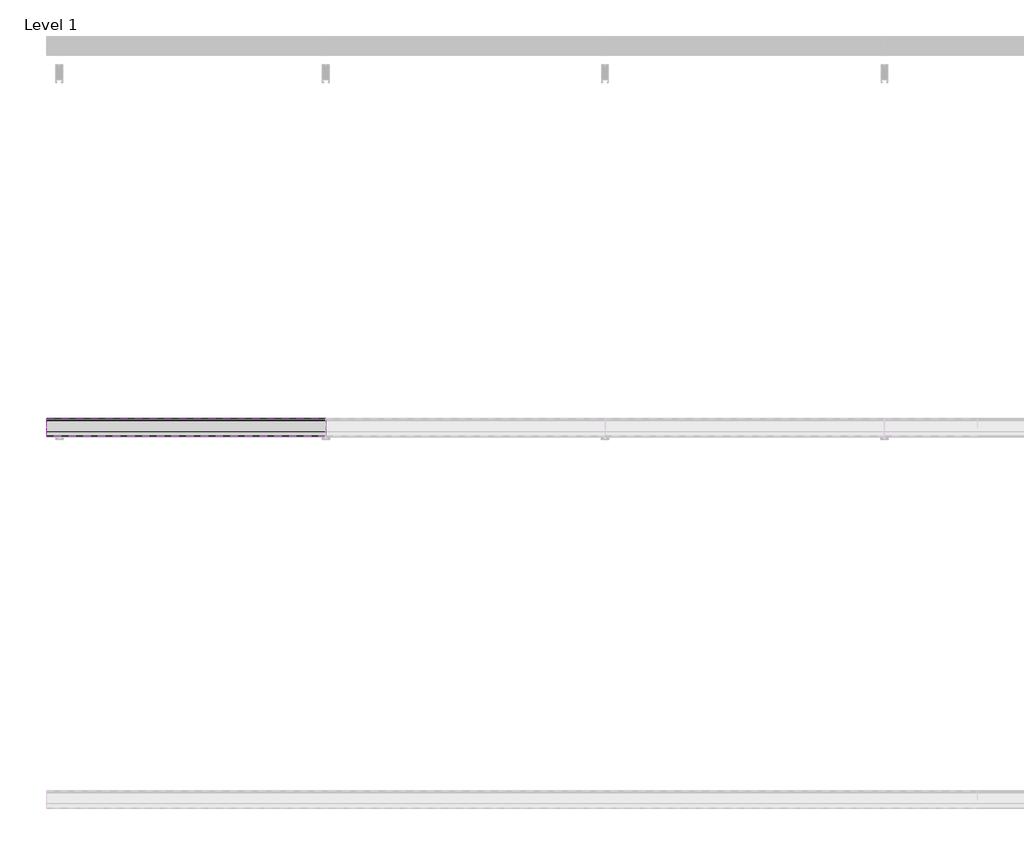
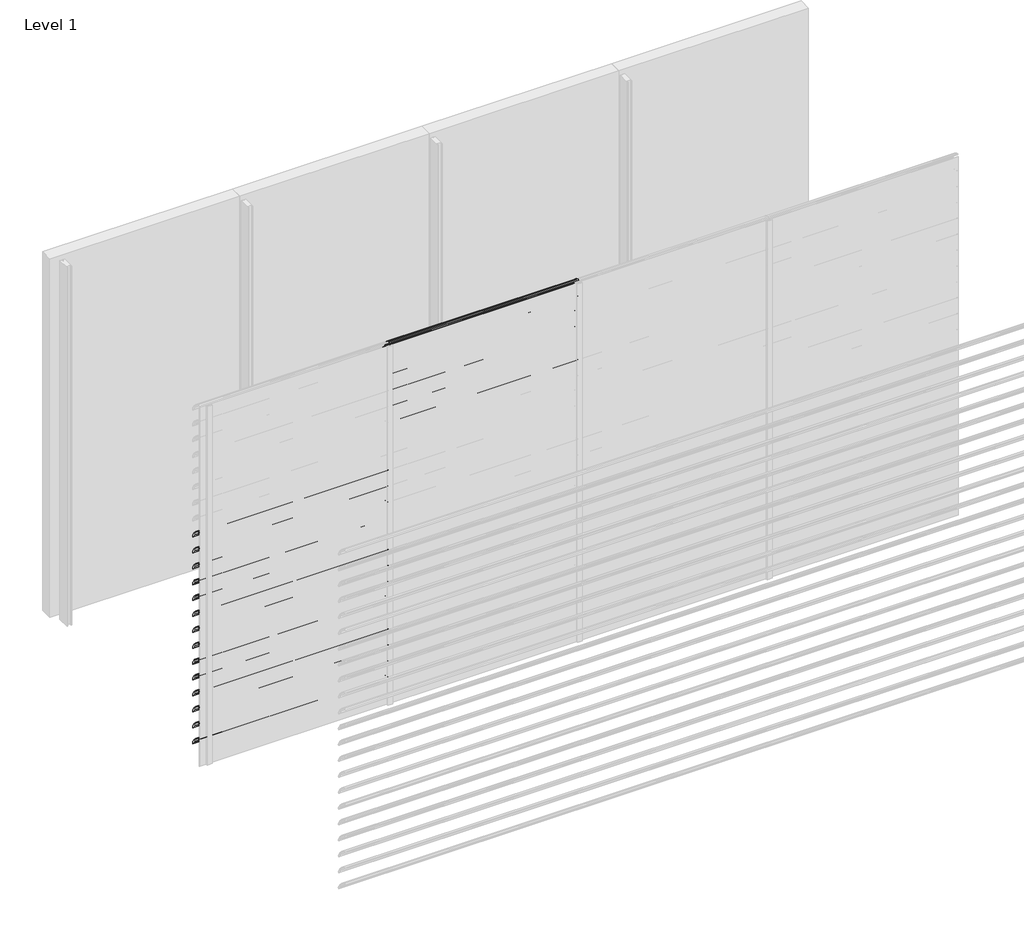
# One storey, part 32 of 57: 20 proxies.
"""IFC4 building model written with IfcOpenShell, lengths in millimetres."""

from ifc_helpers import new_model, si_unit, point, frame, frame_2d, origin, place, context, project, spatial, polyline, circle_curve, trimmed, segment, composite_curve, outline, extrude, element, save

model = new_model("IFC4")

# Units and contexts
model_context = context("Model", 3, world=origin())
ifc_project = project(units=[si_unit("LENGTHUNIT", "METRE", prefix="MILLI")], contexts=[model_context])

# Site, building, storey
site = spatial("IfcSite", under=ifc_project)
building = spatial("IfcBuilding", under=site)
storey = spatial("IfcBuildingStorey", under=building, Name="Level 1", Elevation=0.0)

# Proxies
placement = place(None, origin())
element("IfcBuildingElementProxy", 1, Name="Wall Sweeps", at=placement, inside=storey, context=model_context, shape_type="SweptSolid", body=[
    extrude(outline(composite_curve([segment(trimmed(circle_curve(frame_2d((-23993.7822526, 1952.4913792)), 4.2177474), [point((-23989.6985606, 1953.5462976))], [point((-23993.7822526, 1956.7091266))], False, "CARTESIAN"), True, "CONTINUOUS"), segment(trimmed(circle_curve(frame_2d((-24018.7150834, 1854.2536312)), 105.4456002), [point((-23993.7822526, 1956.7091266))], [point((-23971.7914298, 1948.6832099))], False, "CARTESIAN"), True, "CONTINUOUS"), segment(trimmed(circle_curve(frame_2d((-24061.7199745, 1800.0352476)), 173.7335887), [point((-23971.7914298, 1948.6832099))], [point((-23913.0720121, 1889.9637922))], False, "CARTESIAN"), True, "CONTINUOUS"), segment(trimmed(circle_curve(frame_2d((-24004.9297178, 1838.1860314)), 105.4456002), [point((-23913.0720121, 1889.9637922))], [point((-23903.6249616, 1867.4455765))], False, "CARTESIAN"), True, "CONTINUOUS"), segment(trimmed(circle_curve(frame_2d((-23907.809737, 1866.3307305)), 4.3307305), [point((-23903.6249616, 1867.4455765))], [point((-23909.0769196, 1862.189538))], False, "CARTESIAN"), True, "CONTINUOUS"), segment(polyline([(-23909.0769196, 1862.189538), (-23934.7401984, 1886.9722783)]), True, "CONTINUOUS"), segment(trimmed(circle_curve(frame_2d((-23931.3879574, 1889.2977626)), 4.079877), [point((-23934.7401984, 1886.9722783))], [point((-23930.7310597, 1893.3244091))], False, "CARTESIAN"), True, "CONTINUOUS"), segment(trimmed(circle_curve(frame_2d((-24014.6665585, 1871.2544323)), 86.7885467), [point((-23930.7310597, 1893.3244091))], [point((-23942.3028351, 1919.1683485))], True, "CARTESIAN"), True, "CONTINUOUS"), segment(polyline([(-23942.3028351, 1919.1683485), (-23940.7230099, 1921.9046861)]), True, "CONTINUOUS"), segment(trimmed(circle_curve(frame_2d((-24061.7199745, 1800.0352476)), 171.7335887), [point((-23940.7230099, 1921.9046861))], [point((-23972.7555872, 1946.9289618))], True, "CARTESIAN"), True, "CONTINUOUS"), segment(trimmed(circle_curve(frame_2d((-24018.7150834, 1854.2536312)), 103.4456002), [point((-23972.7555872, 1946.9289618))], [point((-23989.6985606, 1953.5462976))], True, "CARTESIAN"), True, "CONTINUOUS")], self_intersect=False)), frame((0.0, 0.0, 0.0), z_axis=(1.0, 0.0, 0.0), x_axis=(0.0, 1.0, 0.0)), (0.0, 0.0, 1.0), 1500.0),
])
element("IfcBuildingElementProxy", 2, Name="Wall Sweeps", at=placement, inside=storey, context=model_context, shape_type="SweptSolid", body=[
    extrude(outline(composite_curve([segment(trimmed(circle_curve(frame_2d((-23993.7822526, 1819.4913792)), 4.2177474), [point((-23989.6985606, 1820.5462976))], [point((-23993.7822526, 1823.7091266))], False, "CARTESIAN"), True, "CONTINUOUS"), segment(trimmed(circle_curve(frame_2d((-24018.7150834, 1721.2536312)), 105.4456002), [point((-23993.7822526, 1823.7091266))], [point((-23971.7914298, 1815.6832099))], False, "CARTESIAN"), True, "CONTINUOUS"), segment(trimmed(circle_curve(frame_2d((-24061.7199745, 1667.0352476)), 173.7335887), [point((-23971.7914298, 1815.6832099))], [point((-23913.0720121, 1756.9637922))], False, "CARTESIAN"), True, "CONTINUOUS"), segment(trimmed(circle_curve(frame_2d((-24004.9297178, 1705.1860314)), 105.4456002), [point((-23913.0720121, 1756.9637922))], [point((-23903.6249616, 1734.4455765))], False, "CARTESIAN"), True, "CONTINUOUS"), segment(trimmed(circle_curve(frame_2d((-23907.809737, 1733.3307305)), 4.3307305), [point((-23903.6249616, 1734.4455765))], [point((-23909.0769196, 1729.189538))], False, "CARTESIAN"), True, "CONTINUOUS"), segment(polyline([(-23909.0769196, 1729.189538), (-23934.7401984, 1753.9722783)]), True, "CONTINUOUS"), segment(trimmed(circle_curve(frame_2d((-23931.3879574, 1756.2977626)), 4.079877), [point((-23934.7401984, 1753.9722783))], [point((-23930.7310597, 1760.3244091))], False, "CARTESIAN"), True, "CONTINUOUS"), segment(trimmed(circle_curve(frame_2d((-24014.6665585, 1738.2544323)), 86.7885467), [point((-23930.7310597, 1760.3244091))], [point((-23942.3028351, 1786.1683485))], True, "CARTESIAN"), True, "CONTINUOUS"), segment(polyline([(-23942.3028351, 1786.1683485), (-23940.7230099, 1788.9046861)]), True, "CONTINUOUS"), segment(trimmed(circle_curve(frame_2d((-24061.7199745, 1667.0352476)), 171.7335887), [point((-23940.7230099, 1788.9046861))], [point((-23972.7555872, 1813.9289618))], True, "CARTESIAN"), True, "CONTINUOUS"), segment(trimmed(circle_curve(frame_2d((-24018.7150834, 1721.2536312)), 103.4456002), [point((-23972.7555872, 1813.9289618))], [point((-23989.6985606, 1820.5462976))], True, "CARTESIAN"), True, "CONTINUOUS")], self_intersect=False)), frame((0.0, 0.0, 0.0), z_axis=(1.0, 0.0, 0.0), x_axis=(0.0, 1.0, 0.0)), (0.0, 0.0, 1.0), 1500.0),
])
element("IfcBuildingElementProxy", 3, Name="Wall Sweeps", at=placement, inside=storey, context=model_context, shape_type="SweptSolid", body=[
    extrude(outline(composite_curve([segment(trimmed(circle_curve(frame_2d((-23993.7822526, 1686.4913792)), 4.2177474), [point((-23989.6985606, 1687.5462976))], [point((-23993.7822526, 1690.7091266))], False, "CARTESIAN"), True, "CONTINUOUS"), segment(trimmed(circle_curve(frame_2d((-24018.7150834, 1588.2536312)), 105.4456002), [point((-23993.7822526, 1690.7091266))], [point((-23971.7914298, 1682.6832099))], False, "CARTESIAN"), True, "CONTINUOUS"), segment(trimmed(circle_curve(frame_2d((-24061.7199745, 1534.0352476)), 173.7335887), [point((-23971.7914298, 1682.6832099))], [point((-23913.0720121, 1623.9637922))], False, "CARTESIAN"), True, "CONTINUOUS"), segment(trimmed(circle_curve(frame_2d((-24004.9297178, 1572.1860314)), 105.4456002), [point((-23913.0720121, 1623.9637922))], [point((-23903.6249616, 1601.4455765))], False, "CARTESIAN"), True, "CONTINUOUS"), segment(trimmed(circle_curve(frame_2d((-23907.809737, 1600.3307305)), 4.3307305), [point((-23903.6249616, 1601.4455765))], [point((-23909.0769196, 1596.189538))], False, "CARTESIAN"), True, "CONTINUOUS"), segment(polyline([(-23909.0769196, 1596.189538), (-23934.7401984, 1620.9722783)]), True, "CONTINUOUS"), segment(trimmed(circle_curve(frame_2d((-23931.3879574, 1623.2977626)), 4.079877), [point((-23934.7401984, 1620.9722783))], [point((-23930.7310597, 1627.3244091))], False, "CARTESIAN"), True, "CONTINUOUS"), segment(trimmed(circle_curve(frame_2d((-24014.6665585, 1605.2544323)), 86.7885467), [point((-23930.7310597, 1627.3244091))], [point((-23942.3028351, 1653.1683485))], True, "CARTESIAN"), True, "CONTINUOUS"), segment(polyline([(-23942.3028351, 1653.1683485), (-23940.7230099, 1655.9046861)]), True, "CONTINUOUS"), segment(trimmed(circle_curve(frame_2d((-24061.7199745, 1534.0352476)), 171.7335887), [point((-23940.7230099, 1655.9046861))], [point((-23972.7555872, 1680.9289618))], True, "CARTESIAN"), True, "CONTINUOUS"), segment(trimmed(circle_curve(frame_2d((-24018.7150834, 1588.2536312)), 103.4456002), [point((-23972.7555872, 1680.9289618))], [point((-23989.6985606, 1687.5462976))], True, "CARTESIAN"), True, "CONTINUOUS")], self_intersect=False)), frame((0.0, 0.0, 0.0), z_axis=(1.0, 0.0, 0.0), x_axis=(0.0, 1.0, 0.0)), (0.0, 0.0, 1.0), 1500.0),
])
element("IfcBuildingElementProxy", 4, Name="Wall Sweeps", at=placement, inside=storey, context=model_context, shape_type="SweptSolid", body=[
    extrude(outline(composite_curve([segment(trimmed(circle_curve(frame_2d((-23993.7822526, 1553.4913792)), 4.2177474), [point((-23989.6985606, 1554.5462976))], [point((-23993.7822526, 1557.7091266))], False, "CARTESIAN"), True, "CONTINUOUS"), segment(trimmed(circle_curve(frame_2d((-24018.7150834, 1455.2536312)), 105.4456002), [point((-23993.7822526, 1557.7091266))], [point((-23971.7914298, 1549.6832099))], False, "CARTESIAN"), True, "CONTINUOUS"), segment(trimmed(circle_curve(frame_2d((-24061.7199745, 1401.0352476)), 173.7335887), [point((-23971.7914298, 1549.6832099))], [point((-23913.0720121, 1490.9637922))], False, "CARTESIAN"), True, "CONTINUOUS"), segment(trimmed(circle_curve(frame_2d((-24004.9297178, 1439.1860314)), 105.4456002), [point((-23913.0720121, 1490.9637922))], [point((-23903.6249616, 1468.4455765))], False, "CARTESIAN"), True, "CONTINUOUS"), segment(trimmed(circle_curve(frame_2d((-23907.809737, 1467.3307305)), 4.3307305), [point((-23903.6249616, 1468.4455765))], [point((-23909.0769196, 1463.189538))], False, "CARTESIAN"), True, "CONTINUOUS"), segment(polyline([(-23909.0769196, 1463.189538), (-23934.7401984, 1487.9722783)]), True, "CONTINUOUS"), segment(trimmed(circle_curve(frame_2d((-23931.3879574, 1490.2977626)), 4.079877), [point((-23934.7401984, 1487.9722783))], [point((-23930.7310597, 1494.3244091))], False, "CARTESIAN"), True, "CONTINUOUS"), segment(trimmed(circle_curve(frame_2d((-24014.6665585, 1472.2544323)), 86.7885467), [point((-23930.7310597, 1494.3244091))], [point((-23942.3028351, 1520.1683485))], True, "CARTESIAN"), True, "CONTINUOUS"), segment(polyline([(-23942.3028351, 1520.1683485), (-23940.7230099, 1522.9046861)]), True, "CONTINUOUS"), segment(trimmed(circle_curve(frame_2d((-24061.7199745, 1401.0352476)), 171.7335887), [point((-23940.7230099, 1522.9046861))], [point((-23972.7555872, 1547.9289618))], True, "CARTESIAN"), True, "CONTINUOUS"), segment(trimmed(circle_curve(frame_2d((-24018.7150834, 1455.2536312)), 103.4456002), [point((-23972.7555872, 1547.9289618))], [point((-23989.6985606, 1554.5462976))], True, "CARTESIAN"), True, "CONTINUOUS")], self_intersect=False)), frame((0.0, 0.0, 0.0), z_axis=(1.0, 0.0, 0.0), x_axis=(0.0, 1.0, 0.0)), (0.0, 0.0, 1.0), 1500.0),
])
element("IfcBuildingElementProxy", 5, Name="Wall Sweeps", at=placement, inside=storey, context=model_context, shape_type="SweptSolid", body=[
    extrude(outline(composite_curve([segment(trimmed(circle_curve(frame_2d((-23993.7822526, 1420.4913792)), 4.2177474), [point((-23989.6985606, 1421.5462976))], [point((-23993.7822526, 1424.7091266))], False, "CARTESIAN"), True, "CONTINUOUS"), segment(trimmed(circle_curve(frame_2d((-24018.7150834, 1322.2536312)), 105.4456002), [point((-23993.7822526, 1424.7091266))], [point((-23971.7914298, 1416.6832099))], False, "CARTESIAN"), True, "CONTINUOUS"), segment(trimmed(circle_curve(frame_2d((-24061.7199745, 1268.0352476)), 173.7335887), [point((-23971.7914298, 1416.6832099))], [point((-23913.0720121, 1357.9637922))], False, "CARTESIAN"), True, "CONTINUOUS"), segment(trimmed(circle_curve(frame_2d((-24004.9297178, 1306.1860314)), 105.4456002), [point((-23913.0720121, 1357.9637922))], [point((-23903.6249616, 1335.4455765))], False, "CARTESIAN"), True, "CONTINUOUS"), segment(trimmed(circle_curve(frame_2d((-23907.809737, 1334.3307305)), 4.3307305), [point((-23903.6249616, 1335.4455765))], [point((-23909.0769196, 1330.189538))], False, "CARTESIAN"), True, "CONTINUOUS"), segment(polyline([(-23909.0769196, 1330.189538), (-23934.7401984, 1354.9722783)]), True, "CONTINUOUS"), segment(trimmed(circle_curve(frame_2d((-23931.3879574, 1357.2977626)), 4.079877), [point((-23934.7401984, 1354.9722783))], [point((-23930.7310597, 1361.3244091))], False, "CARTESIAN"), True, "CONTINUOUS"), segment(trimmed(circle_curve(frame_2d((-24014.6665585, 1339.2544323)), 86.7885467), [point((-23930.7310597, 1361.3244091))], [point((-23942.3028351, 1387.1683485))], True, "CARTESIAN"), True, "CONTINUOUS"), segment(polyline([(-23942.3028351, 1387.1683485), (-23940.7230099, 1389.9046861)]), True, "CONTINUOUS"), segment(trimmed(circle_curve(frame_2d((-24061.7199745, 1268.0352476)), 171.7335887), [point((-23940.7230099, 1389.9046861))], [point((-23972.7555872, 1414.9289618))], True, "CARTESIAN"), True, "CONTINUOUS"), segment(trimmed(circle_curve(frame_2d((-24018.7150834, 1322.2536312)), 103.4456002), [point((-23972.7555872, 1414.9289618))], [point((-23989.6985606, 1421.5462976))], True, "CARTESIAN"), True, "CONTINUOUS")], self_intersect=False)), frame((0.0, 0.0, 0.0), z_axis=(1.0, 0.0, 0.0), x_axis=(0.0, 1.0, 0.0)), (0.0, 0.0, 1.0), 1500.0),
])
element("IfcBuildingElementProxy", 6, Name="Wall Sweeps", at=placement, inside=storey, context=model_context, shape_type="SweptSolid", body=[
    extrude(outline(composite_curve([segment(trimmed(circle_curve(frame_2d((-23993.7822526, 1287.4913792)), 4.2177474), [point((-23989.6985606, 1288.5462976))], [point((-23993.7822526, 1291.7091266))], False, "CARTESIAN"), True, "CONTINUOUS"), segment(trimmed(circle_curve(frame_2d((-24018.7150834, 1189.2536312)), 105.4456002), [point((-23993.7822526, 1291.7091266))], [point((-23971.7914298, 1283.6832099))], False, "CARTESIAN"), True, "CONTINUOUS"), segment(trimmed(circle_curve(frame_2d((-24061.7199745, 1135.0352476)), 173.7335887), [point((-23971.7914298, 1283.6832099))], [point((-23913.0720121, 1224.9637922))], False, "CARTESIAN"), True, "CONTINUOUS"), segment(trimmed(circle_curve(frame_2d((-24004.9297178, 1173.1860314)), 105.4456002), [point((-23913.0720121, 1224.9637922))], [point((-23903.6249616, 1202.4455765))], False, "CARTESIAN"), True, "CONTINUOUS"), segment(trimmed(circle_curve(frame_2d((-23907.809737, 1201.3307305)), 4.3307305), [point((-23903.6249616, 1202.4455765))], [point((-23909.0769196, 1197.189538))], False, "CARTESIAN"), True, "CONTINUOUS"), segment(polyline([(-23909.0769196, 1197.189538), (-23934.7401984, 1221.9722783)]), True, "CONTINUOUS"), segment(trimmed(circle_curve(frame_2d((-23931.3879574, 1224.2977626)), 4.079877), [point((-23934.7401984, 1221.9722783))], [point((-23930.7310597, 1228.3244091))], False, "CARTESIAN"), True, "CONTINUOUS"), segment(trimmed(circle_curve(frame_2d((-24014.6665585, 1206.2544323)), 86.7885467), [point((-23930.7310597, 1228.3244091))], [point((-23942.3028351, 1254.1683485))], True, "CARTESIAN"), True, "CONTINUOUS"), segment(polyline([(-23942.3028351, 1254.1683485), (-23940.7230099, 1256.9046861)]), True, "CONTINUOUS"), segment(trimmed(circle_curve(frame_2d((-24061.7199745, 1135.0352476)), 171.7335887), [point((-23940.7230099, 1256.9046861))], [point((-23972.7555872, 1281.9289618))], True, "CARTESIAN"), True, "CONTINUOUS"), segment(trimmed(circle_curve(frame_2d((-24018.7150834, 1189.2536312)), 103.4456002), [point((-23972.7555872, 1281.9289618))], [point((-23989.6985606, 1288.5462976))], True, "CARTESIAN"), True, "CONTINUOUS")], self_intersect=False)), frame((0.0, 0.0, 0.0), z_axis=(1.0, 0.0, 0.0), x_axis=(0.0, 1.0, 0.0)), (0.0, 0.0, 1.0), 1500.0),
])
element("IfcBuildingElementProxy", 7, Name="Wall Sweeps", at=placement, inside=storey, context=model_context, shape_type="SweptSolid", body=[
    extrude(outline(composite_curve([segment(trimmed(circle_curve(frame_2d((-23993.7822526, 1154.4913792)), 4.2177474), [point((-23989.6985606, 1155.5462976))], [point((-23993.7822526, 1158.7091266))], False, "CARTESIAN"), True, "CONTINUOUS"), segment(trimmed(circle_curve(frame_2d((-24018.7150834, 1056.2536312)), 105.4456002), [point((-23993.7822526, 1158.7091266))], [point((-23971.7914298, 1150.6832099))], False, "CARTESIAN"), True, "CONTINUOUS"), segment(trimmed(circle_curve(frame_2d((-24061.7199745, 1002.0352476)), 173.7335887), [point((-23971.7914298, 1150.6832099))], [point((-23913.0720121, 1091.9637922))], False, "CARTESIAN"), True, "CONTINUOUS"), segment(trimmed(circle_curve(frame_2d((-24004.9297178, 1040.1860314)), 105.4456002), [point((-23913.0720121, 1091.9637922))], [point((-23903.6249616, 1069.4455765))], False, "CARTESIAN"), True, "CONTINUOUS"), segment(trimmed(circle_curve(frame_2d((-23907.809737, 1068.3307305)), 4.3307305), [point((-23903.6249616, 1069.4455765))], [point((-23909.0769196, 1064.189538))], False, "CARTESIAN"), True, "CONTINUOUS"), segment(polyline([(-23909.0769196, 1064.189538), (-23934.7401984, 1088.9722783)]), True, "CONTINUOUS"), segment(trimmed(circle_curve(frame_2d((-23931.3879574, 1091.2977626)), 4.079877), [point((-23934.7401984, 1088.9722783))], [point((-23930.7310597, 1095.3244091))], False, "CARTESIAN"), True, "CONTINUOUS"), segment(trimmed(circle_curve(frame_2d((-24014.6665585, 1073.2544323)), 86.7885467), [point((-23930.7310597, 1095.3244091))], [point((-23942.3028351, 1121.1683485))], True, "CARTESIAN"), True, "CONTINUOUS"), segment(polyline([(-23942.3028351, 1121.1683485), (-23940.7230099, 1123.9046861)]), True, "CONTINUOUS"), segment(trimmed(circle_curve(frame_2d((-24061.7199745, 1002.0352476)), 171.7335887), [point((-23940.7230099, 1123.9046861))], [point((-23972.7555872, 1148.9289618))], True, "CARTESIAN"), True, "CONTINUOUS"), segment(trimmed(circle_curve(frame_2d((-24018.7150834, 1056.2536312)), 103.4456002), [point((-23972.7555872, 1148.9289618))], [point((-23989.6985606, 1155.5462976))], True, "CARTESIAN"), True, "CONTINUOUS")], self_intersect=False)), frame((0.0, 0.0, 0.0), z_axis=(1.0, 0.0, 0.0), x_axis=(0.0, 1.0, 0.0)), (0.0, 0.0, 1.0), 1500.0),
])
element("IfcBuildingElementProxy", 8, Name="Wall Sweeps", at=placement, inside=storey, context=model_context, shape_type="SweptSolid", body=[
    extrude(outline(composite_curve([segment(trimmed(circle_curve(frame_2d((-23993.7822526, 1021.4913792)), 4.2177474), [point((-23989.6985606, 1022.5462976))], [point((-23993.7822526, 1025.7091266))], False, "CARTESIAN"), True, "CONTINUOUS"), segment(trimmed(circle_curve(frame_2d((-24018.7150834, 923.2536312)), 105.4456002), [point((-23993.7822526, 1025.7091266))], [point((-23971.7914298, 1017.6832099))], False, "CARTESIAN"), True, "CONTINUOUS"), segment(trimmed(circle_curve(frame_2d((-24061.7199745, 869.0352476)), 173.7335887), [point((-23971.7914298, 1017.6832099))], [point((-23913.0720121, 958.9637922))], False, "CARTESIAN"), True, "CONTINUOUS"), segment(trimmed(circle_curve(frame_2d((-24004.9297178, 907.1860314)), 105.4456002), [point((-23913.0720121, 958.9637922))], [point((-23903.6249616, 936.4455765))], False, "CARTESIAN"), True, "CONTINUOUS"), segment(trimmed(circle_curve(frame_2d((-23907.809737, 935.3307305)), 4.3307305), [point((-23903.6249616, 936.4455765))], [point((-23909.0769196, 931.189538))], False, "CARTESIAN"), True, "CONTINUOUS"), segment(polyline([(-23909.0769196, 931.189538), (-23934.7401984, 955.9722783)]), True, "CONTINUOUS"), segment(trimmed(circle_curve(frame_2d((-23931.3879574, 958.2977626)), 4.079877), [point((-23934.7401984, 955.9722783))], [point((-23930.7310597, 962.3244091))], False, "CARTESIAN"), True, "CONTINUOUS"), segment(trimmed(circle_curve(frame_2d((-24014.6665585, 940.2544323)), 86.7885467), [point((-23930.7310597, 962.3244091))], [point((-23942.3028351, 988.1683485))], True, "CARTESIAN"), True, "CONTINUOUS"), segment(polyline([(-23942.3028351, 988.1683485), (-23940.7230099, 990.9046861)]), True, "CONTINUOUS"), segment(trimmed(circle_curve(frame_2d((-24061.7199745, 869.0352476)), 171.7335887), [point((-23940.7230099, 990.9046861))], [point((-23972.7555872, 1015.9289618))], True, "CARTESIAN"), True, "CONTINUOUS"), segment(trimmed(circle_curve(frame_2d((-24018.7150834, 923.2536312)), 103.4456002), [point((-23972.7555872, 1015.9289618))], [point((-23989.6985606, 1022.5462976))], True, "CARTESIAN"), True, "CONTINUOUS")], self_intersect=False)), frame((0.0, 0.0, 0.0), z_axis=(1.0, 0.0, 0.0), x_axis=(0.0, 1.0, 0.0)), (0.0, 0.0, 1.0), 1500.0),
])
element("IfcBuildingElementProxy", 9, Name="Wall Sweeps", at=placement, inside=storey, context=model_context, shape_type="SweptSolid", body=[
    extrude(outline(composite_curve([segment(trimmed(circle_curve(frame_2d((-23993.7822526, 888.4913792)), 4.2177474), [point((-23989.6985606, 889.5462976))], [point((-23993.7822526, 892.7091266))], False, "CARTESIAN"), True, "CONTINUOUS"), segment(trimmed(circle_curve(frame_2d((-24018.7150834, 790.2536312)), 105.4456002), [point((-23993.7822526, 892.7091266))], [point((-23971.7914298, 884.6832099))], False, "CARTESIAN"), True, "CONTINUOUS"), segment(trimmed(circle_curve(frame_2d((-24061.7199745, 736.0352476)), 173.7335887), [point((-23971.7914298, 884.6832099))], [point((-23913.0720121, 825.9637922))], False, "CARTESIAN"), True, "CONTINUOUS"), segment(trimmed(circle_curve(frame_2d((-24004.9297178, 774.1860314)), 105.4456002), [point((-23913.0720121, 825.9637922))], [point((-23903.6249616, 803.4455765))], False, "CARTESIAN"), True, "CONTINUOUS"), segment(trimmed(circle_curve(frame_2d((-23907.809737, 802.3307305)), 4.3307305), [point((-23903.6249616, 803.4455765))], [point((-23909.0769196, 798.189538))], False, "CARTESIAN"), True, "CONTINUOUS"), segment(polyline([(-23909.0769196, 798.189538), (-23934.7401984, 822.9722783)]), True, "CONTINUOUS"), segment(trimmed(circle_curve(frame_2d((-23931.3879574, 825.2977626)), 4.079877), [point((-23934.7401984, 822.9722783))], [point((-23930.7310597, 829.3244091))], False, "CARTESIAN"), True, "CONTINUOUS"), segment(trimmed(circle_curve(frame_2d((-24014.6665585, 807.2544323)), 86.7885467), [point((-23930.7310597, 829.3244091))], [point((-23942.3028351, 855.1683485))], True, "CARTESIAN"), True, "CONTINUOUS"), segment(polyline([(-23942.3028351, 855.1683485), (-23940.7230099, 857.9046861)]), True, "CONTINUOUS"), segment(trimmed(circle_curve(frame_2d((-24061.7199745, 736.0352476)), 171.7335887), [point((-23940.7230099, 857.9046861))], [point((-23972.7555872, 882.9289618))], True, "CARTESIAN"), True, "CONTINUOUS"), segment(trimmed(circle_curve(frame_2d((-24018.7150834, 790.2536312)), 103.4456002), [point((-23972.7555872, 882.9289618))], [point((-23989.6985606, 889.5462976))], True, "CARTESIAN"), True, "CONTINUOUS")], self_intersect=False)), frame((0.0, 0.0, 0.0), z_axis=(1.0, 0.0, 0.0), x_axis=(0.0, 1.0, 0.0)), (0.0, 0.0, 1.0), 1500.0),
])
element("IfcBuildingElementProxy", 10, Name="Wall Sweeps", at=placement, inside=storey, context=model_context, shape_type="SweptSolid", body=[
    extrude(outline(composite_curve([segment(trimmed(circle_curve(frame_2d((-23993.7822526, 755.4913792)), 4.2177474), [point((-23989.6985606, 756.5462976))], [point((-23993.7822526, 759.7091266))], False, "CARTESIAN"), True, "CONTINUOUS"), segment(trimmed(circle_curve(frame_2d((-24018.7150834, 657.2536312)), 105.4456002), [point((-23993.7822526, 759.7091266))], [point((-23971.7914298, 751.6832099))], False, "CARTESIAN"), True, "CONTINUOUS"), segment(trimmed(circle_curve(frame_2d((-24061.7199745, 603.0352476)), 173.7335887), [point((-23971.7914298, 751.6832099))], [point((-23913.0720121, 692.9637922))], False, "CARTESIAN"), True, "CONTINUOUS"), segment(trimmed(circle_curve(frame_2d((-24004.9297178, 641.1860314)), 105.4456002), [point((-23913.0720121, 692.9637922))], [point((-23903.6249616, 670.4455765))], False, "CARTESIAN"), True, "CONTINUOUS"), segment(trimmed(circle_curve(frame_2d((-23907.809737, 669.3307305)), 4.3307305), [point((-23903.6249616, 670.4455765))], [point((-23909.0769196, 665.189538))], False, "CARTESIAN"), True, "CONTINUOUS"), segment(polyline([(-23909.0769196, 665.189538), (-23934.7401984, 689.9722783)]), True, "CONTINUOUS"), segment(trimmed(circle_curve(frame_2d((-23931.3879574, 692.2977626)), 4.079877), [point((-23934.7401984, 689.9722783))], [point((-23930.7310597, 696.3244091))], False, "CARTESIAN"), True, "CONTINUOUS"), segment(trimmed(circle_curve(frame_2d((-24014.6665585, 674.2544323)), 86.7885467), [point((-23930.7310597, 696.3244091))], [point((-23942.3028351, 722.1683485))], True, "CARTESIAN"), True, "CONTINUOUS"), segment(polyline([(-23942.3028351, 722.1683485), (-23940.7230099, 724.9046861)]), True, "CONTINUOUS"), segment(trimmed(circle_curve(frame_2d((-24061.7199745, 603.0352476)), 171.7335887), [point((-23940.7230099, 724.9046861))], [point((-23972.7555872, 749.9289618))], True, "CARTESIAN"), True, "CONTINUOUS"), segment(trimmed(circle_curve(frame_2d((-24018.7150834, 657.2536312)), 103.4456002), [point((-23972.7555872, 749.9289618))], [point((-23989.6985606, 756.5462976))], True, "CARTESIAN"), True, "CONTINUOUS")], self_intersect=False)), frame((0.0, 0.0, 0.0), z_axis=(1.0, 0.0, 0.0), x_axis=(0.0, 1.0, 0.0)), (0.0, 0.0, 1.0), 1500.0),
])
element("IfcBuildingElementProxy", 11, Name="Wall Sweeps", at=placement, inside=storey, context=model_context, shape_type="SweptSolid", body=[
    extrude(outline(composite_curve([segment(trimmed(circle_curve(frame_2d((-23993.7822526, 622.4913792)), 4.2177474), [point((-23989.6985606, 623.5462976))], [point((-23993.7822526, 626.7091266))], False, "CARTESIAN"), True, "CONTINUOUS"), segment(trimmed(circle_curve(frame_2d((-24018.7150834, 524.2536312)), 105.4456002), [point((-23993.7822526, 626.7091266))], [point((-23971.7914298, 618.6832099))], False, "CARTESIAN"), True, "CONTINUOUS"), segment(trimmed(circle_curve(frame_2d((-24061.7199745, 470.0352476)), 173.7335887), [point((-23971.7914298, 618.6832099))], [point((-23913.0720121, 559.9637922))], False, "CARTESIAN"), True, "CONTINUOUS"), segment(trimmed(circle_curve(frame_2d((-24004.9297178, 508.1860314)), 105.4456002), [point((-23913.0720121, 559.9637922))], [point((-23903.6249616, 537.4455765))], False, "CARTESIAN"), True, "CONTINUOUS"), segment(trimmed(circle_curve(frame_2d((-23907.809737, 536.3307305)), 4.3307305), [point((-23903.6249616, 537.4455765))], [point((-23909.0769196, 532.189538))], False, "CARTESIAN"), True, "CONTINUOUS"), segment(polyline([(-23909.0769196, 532.189538), (-23934.7401984, 556.9722783)]), True, "CONTINUOUS"), segment(trimmed(circle_curve(frame_2d((-23931.3879574, 559.2977626)), 4.079877), [point((-23934.7401984, 556.9722783))], [point((-23930.7310597, 563.3244091))], False, "CARTESIAN"), True, "CONTINUOUS"), segment(trimmed(circle_curve(frame_2d((-24014.6665585, 541.2544323)), 86.7885467), [point((-23930.7310597, 563.3244091))], [point((-23942.3028351, 589.1683485))], True, "CARTESIAN"), True, "CONTINUOUS"), segment(polyline([(-23942.3028351, 589.1683485), (-23940.7230099, 591.9046861)]), True, "CONTINUOUS"), segment(trimmed(circle_curve(frame_2d((-24061.7199745, 470.0352476)), 171.7335887), [point((-23940.7230099, 591.9046861))], [point((-23972.7555872, 616.9289618))], True, "CARTESIAN"), True, "CONTINUOUS"), segment(trimmed(circle_curve(frame_2d((-24018.7150834, 524.2536312)), 103.4456002), [point((-23972.7555872, 616.9289618))], [point((-23989.6985606, 623.5462976))], True, "CARTESIAN"), True, "CONTINUOUS")], self_intersect=False)), frame((0.0, 0.0, 0.0), z_axis=(1.0, 0.0, 0.0), x_axis=(0.0, 1.0, 0.0)), (0.0, 0.0, 1.0), 1500.0),
])
element("IfcBuildingElementProxy", 12, Name="Wall Sweeps", at=placement, inside=storey, context=model_context, shape_type="SweptSolid", body=[
    extrude(outline(composite_curve([segment(trimmed(circle_curve(frame_2d((-23993.7822526, 489.4913792)), 4.2177474), [point((-23989.6985606, 490.5462976))], [point((-23993.7822526, 493.7091266))], False, "CARTESIAN"), True, "CONTINUOUS"), segment(trimmed(circle_curve(frame_2d((-24018.7150834, 391.2536312)), 105.4456002), [point((-23993.7822526, 493.7091266))], [point((-23971.7914298, 485.6832099))], False, "CARTESIAN"), True, "CONTINUOUS"), segment(trimmed(circle_curve(frame_2d((-24061.7199745, 337.0352476)), 173.7335887), [point((-23971.7914298, 485.6832099))], [point((-23913.0720121, 426.9637922))], False, "CARTESIAN"), True, "CONTINUOUS"), segment(trimmed(circle_curve(frame_2d((-24004.9297178, 375.1860314)), 105.4456002), [point((-23913.0720121, 426.9637922))], [point((-23903.6249616, 404.4455765))], False, "CARTESIAN"), True, "CONTINUOUS"), segment(trimmed(circle_curve(frame_2d((-23907.809737, 403.3307305)), 4.3307305), [point((-23903.6249616, 404.4455765))], [point((-23909.0769196, 399.189538))], False, "CARTESIAN"), True, "CONTINUOUS"), segment(polyline([(-23909.0769196, 399.189538), (-23934.7401984, 423.9722783)]), True, "CONTINUOUS"), segment(trimmed(circle_curve(frame_2d((-23931.3879574, 426.2977626)), 4.079877), [point((-23934.7401984, 423.9722783))], [point((-23930.7310597, 430.3244091))], False, "CARTESIAN"), True, "CONTINUOUS"), segment(trimmed(circle_curve(frame_2d((-24014.6665585, 408.2544323)), 86.7885467), [point((-23930.7310597, 430.3244091))], [point((-23942.3028351, 456.1683485))], True, "CARTESIAN"), True, "CONTINUOUS"), segment(polyline([(-23942.3028351, 456.1683485), (-23940.7230099, 458.9046861)]), True, "CONTINUOUS"), segment(trimmed(circle_curve(frame_2d((-24061.7199745, 337.0352476)), 171.7335887), [point((-23940.7230099, 458.9046861))], [point((-23972.7555872, 483.9289618))], True, "CARTESIAN"), True, "CONTINUOUS"), segment(trimmed(circle_curve(frame_2d((-24018.7150834, 391.2536312)), 103.4456002), [point((-23972.7555872, 483.9289618))], [point((-23989.6985606, 490.5462976))], True, "CARTESIAN"), True, "CONTINUOUS")], self_intersect=False)), frame((0.0, 0.0, 0.0), z_axis=(1.0, 0.0, 0.0), x_axis=(0.0, 1.0, 0.0)), (0.0, 0.0, 1.0), 1500.0),
])
element("IfcBuildingElementProxy", 13, Name="Wall Sweeps", at=placement, inside=storey, context=model_context, shape_type="SweptSolid", body=[
    extrude(outline(composite_curve([segment(trimmed(circle_curve(frame_2d((-23993.7822526, 356.4913792)), 4.2177474), [point((-23989.6985606, 357.5462976))], [point((-23993.7822526, 360.7091266))], False, "CARTESIAN"), True, "CONTINUOUS"), segment(trimmed(circle_curve(frame_2d((-24018.7150834, 258.2536312)), 105.4456002), [point((-23993.7822526, 360.7091266))], [point((-23971.7914298, 352.6832099))], False, "CARTESIAN"), True, "CONTINUOUS"), segment(trimmed(circle_curve(frame_2d((-24061.7199745, 204.0352476)), 173.7335887), [point((-23971.7914298, 352.6832099))], [point((-23913.0720121, 293.9637922))], False, "CARTESIAN"), True, "CONTINUOUS"), segment(trimmed(circle_curve(frame_2d((-24004.9297178, 242.1860314)), 105.4456002), [point((-23913.0720121, 293.9637922))], [point((-23903.6249616, 271.4455765))], False, "CARTESIAN"), True, "CONTINUOUS"), segment(trimmed(circle_curve(frame_2d((-23907.809737, 270.3307305)), 4.3307305), [point((-23903.6249616, 271.4455765))], [point((-23909.0769196, 266.189538))], False, "CARTESIAN"), True, "CONTINUOUS"), segment(polyline([(-23909.0769196, 266.189538), (-23934.7401984, 290.9722783)]), True, "CONTINUOUS"), segment(trimmed(circle_curve(frame_2d((-23931.3879574, 293.2977626)), 4.079877), [point((-23934.7401984, 290.9722783))], [point((-23930.7310597, 297.3244091))], False, "CARTESIAN"), True, "CONTINUOUS"), segment(trimmed(circle_curve(frame_2d((-24014.6665585, 275.2544323)), 86.7885467), [point((-23930.7310597, 297.3244091))], [point((-23942.3028351, 323.1683485))], True, "CARTESIAN"), True, "CONTINUOUS"), segment(polyline([(-23942.3028351, 323.1683485), (-23940.7230099, 325.9046861)]), True, "CONTINUOUS"), segment(trimmed(circle_curve(frame_2d((-24061.7199745, 204.0352476)), 171.7335887), [point((-23940.7230099, 325.9046861))], [point((-23972.7555872, 350.9289618))], True, "CARTESIAN"), True, "CONTINUOUS"), segment(trimmed(circle_curve(frame_2d((-24018.7150834, 258.2536312)), 103.4456002), [point((-23972.7555872, 350.9289618))], [point((-23989.6985606, 357.5462976))], True, "CARTESIAN"), True, "CONTINUOUS")], self_intersect=False)), frame((0.0, 0.0, 0.0), z_axis=(1.0, 0.0, 0.0), x_axis=(0.0, 1.0, 0.0)), (0.0, 0.0, 1.0), 1500.0),
])
element("IfcBuildingElementProxy", 14, Name="Wall Sweeps", at=placement, inside=storey, context=model_context, shape_type="SweptSolid", body=[
    extrude(outline(composite_curve([segment(trimmed(circle_curve(frame_2d((-23993.7822526, 223.4913792)), 4.2177474), [point((-23989.6985606, 224.5462976))], [point((-23993.7822526, 227.7091266))], False, "CARTESIAN"), True, "CONTINUOUS"), segment(trimmed(circle_curve(frame_2d((-24018.7150834, 125.2536312)), 105.4456002), [point((-23993.7822526, 227.7091266))], [point((-23971.7914298, 219.6832099))], False, "CARTESIAN"), True, "CONTINUOUS"), segment(trimmed(circle_curve(frame_2d((-24061.7199745, 71.0352476)), 173.7335887), [point((-23971.7914298, 219.6832099))], [point((-23913.0720121, 160.9637922))], False, "CARTESIAN"), True, "CONTINUOUS"), segment(trimmed(circle_curve(frame_2d((-24004.9297178, 109.1860314)), 105.4456002), [point((-23913.0720121, 160.9637922))], [point((-23903.6249616, 138.4455765))], False, "CARTESIAN"), True, "CONTINUOUS"), segment(trimmed(circle_curve(frame_2d((-23907.809737, 137.3307305)), 4.3307305), [point((-23903.6249616, 138.4455765))], [point((-23909.0769196, 133.189538))], False, "CARTESIAN"), True, "CONTINUOUS"), segment(polyline([(-23909.0769196, 133.189538), (-23934.7401984, 157.9722783)]), True, "CONTINUOUS"), segment(trimmed(circle_curve(frame_2d((-23931.3879574, 160.2977626)), 4.079877), [point((-23934.7401984, 157.9722783))], [point((-23930.7310597, 164.3244091))], False, "CARTESIAN"), True, "CONTINUOUS"), segment(trimmed(circle_curve(frame_2d((-24014.6665585, 142.2544323)), 86.7885467), [point((-23930.7310597, 164.3244091))], [point((-23942.3028351, 190.1683485))], True, "CARTESIAN"), True, "CONTINUOUS"), segment(polyline([(-23942.3028351, 190.1683485), (-23940.7230099, 192.9046861)]), True, "CONTINUOUS"), segment(trimmed(circle_curve(frame_2d((-24061.7199745, 71.0352476)), 171.7335887), [point((-23940.7230099, 192.9046861))], [point((-23972.7555872, 217.9289618))], True, "CARTESIAN"), True, "CONTINUOUS"), segment(trimmed(circle_curve(frame_2d((-24018.7150834, 125.2536312)), 103.4456002), [point((-23972.7555872, 217.9289618))], [point((-23989.6985606, 224.5462976))], True, "CARTESIAN"), True, "CONTINUOUS")], self_intersect=False)), frame((0.0, 0.0, 0.0), z_axis=(1.0, 0.0, 0.0), x_axis=(0.0, 1.0, 0.0)), (0.0, 0.0, 1.0), 1500.0),
])
element("IfcBuildingElementProxy", 15, Name="Wall Sweeps", at=placement, inside=storey, context=model_context, shape_type="SweptSolid", body=[
    extrude(outline(composite_curve([segment(trimmed(circle_curve(frame_2d((-23993.7822526, 3016.4913792)), 4.2177474), [point((-23989.6985606, 3017.5462976))], [point((-23993.7822526, 3020.7091266))], False, "CARTESIAN"), True, "CONTINUOUS"), segment(trimmed(circle_curve(frame_2d((-24018.7150834, 2918.2536312)), 105.4456002), [point((-23993.7822526, 3020.7091266))], [point((-23971.7914298, 3012.6832099))], False, "CARTESIAN"), True, "CONTINUOUS"), segment(trimmed(circle_curve(frame_2d((-24061.7199745, 2864.0352476)), 173.7335887), [point((-23971.7914298, 3012.6832099))], [point((-23913.0720121, 2953.9637922))], False, "CARTESIAN"), True, "CONTINUOUS"), segment(trimmed(circle_curve(frame_2d((-24004.9297178, 2902.1860314)), 105.4456002), [point((-23913.0720121, 2953.9637922))], [point((-23903.6249616, 2931.4455765))], False, "CARTESIAN"), True, "CONTINUOUS"), segment(trimmed(circle_curve(frame_2d((-23907.809737, 2930.3307305)), 4.3307305), [point((-23903.6249616, 2931.4455765))], [point((-23909.0769196, 2926.189538))], False, "CARTESIAN"), True, "CONTINUOUS"), segment(polyline([(-23909.0769196, 2926.189538), (-23934.7401984, 2950.9722783)]), True, "CONTINUOUS"), segment(trimmed(circle_curve(frame_2d((-23931.3879574, 2953.2977626)), 4.079877), [point((-23934.7401984, 2950.9722783))], [point((-23930.7310597, 2957.3244091))], False, "CARTESIAN"), True, "CONTINUOUS"), segment(trimmed(circle_curve(frame_2d((-24014.6665585, 2935.2544323)), 86.7885467), [point((-23930.7310597, 2957.3244091))], [point((-23942.3028351, 2983.1683485))], True, "CARTESIAN"), True, "CONTINUOUS"), segment(polyline([(-23942.3028351, 2983.1683485), (-23940.7230099, 2985.9046861)]), True, "CONTINUOUS"), segment(trimmed(circle_curve(frame_2d((-24061.7199745, 2864.0352476)), 171.7335887), [point((-23940.7230099, 2985.9046861))], [point((-23972.7555872, 3010.9289618))], True, "CARTESIAN"), True, "CONTINUOUS"), segment(trimmed(circle_curve(frame_2d((-24018.7150834, 2918.2536312)), 103.4456002), [point((-23972.7555872, 3010.9289618))], [point((-23989.6985606, 3017.5462976))], True, "CARTESIAN"), True, "CONTINUOUS")], self_intersect=False)), frame((1500.0, 0.0, 0.0), z_axis=(1.0, 0.0, 0.0), x_axis=(0.0, 1.0, 0.0)), (0.0, 0.0, 1.0), 1500.0),
])
element("IfcBuildingElementProxy", 16, Name="Wall Sweeps", at=placement, inside=storey, context=model_context, shape_type="SweptSolid", body=[
    extrude(outline(composite_curve([segment(trimmed(circle_curve(frame_2d((-23993.7822526, 2883.4913792)), 4.2177474), [point((-23989.6985606, 2884.5462976))], [point((-23993.7822526, 2887.7091266))], False, "CARTESIAN"), True, "CONTINUOUS"), segment(trimmed(circle_curve(frame_2d((-24018.7150834, 2785.2536312)), 105.4456002), [point((-23993.7822526, 2887.7091266))], [point((-23971.7914298, 2879.6832099))], False, "CARTESIAN"), True, "CONTINUOUS"), segment(trimmed(circle_curve(frame_2d((-24061.7199745, 2731.0352476)), 173.7335887), [point((-23971.7914298, 2879.6832099))], [point((-23913.0720121, 2820.9637922))], False, "CARTESIAN"), True, "CONTINUOUS"), segment(trimmed(circle_curve(frame_2d((-24004.9297178, 2769.1860314)), 105.4456002), [point((-23913.0720121, 2820.9637922))], [point((-23903.6249616, 2798.4455765))], False, "CARTESIAN"), True, "CONTINUOUS"), segment(trimmed(circle_curve(frame_2d((-23907.809737, 2797.3307305)), 4.3307305), [point((-23903.6249616, 2798.4455765))], [point((-23909.0769196, 2793.189538))], False, "CARTESIAN"), True, "CONTINUOUS"), segment(polyline([(-23909.0769196, 2793.189538), (-23934.7401984, 2817.9722783)]), True, "CONTINUOUS"), segment(trimmed(circle_curve(frame_2d((-23931.3879574, 2820.2977626)), 4.079877), [point((-23934.7401984, 2817.9722783))], [point((-23930.7310597, 2824.3244091))], False, "CARTESIAN"), True, "CONTINUOUS"), segment(trimmed(circle_curve(frame_2d((-24014.6665585, 2802.2544323)), 86.7885467), [point((-23930.7310597, 2824.3244091))], [point((-23942.3028351, 2850.1683485))], True, "CARTESIAN"), True, "CONTINUOUS"), segment(polyline([(-23942.3028351, 2850.1683485), (-23940.7230099, 2852.9046861)]), True, "CONTINUOUS"), segment(trimmed(circle_curve(frame_2d((-24061.7199745, 2731.0352476)), 171.7335887), [point((-23940.7230099, 2852.9046861))], [point((-23972.7555872, 2877.9289618))], True, "CARTESIAN"), True, "CONTINUOUS"), segment(trimmed(circle_curve(frame_2d((-24018.7150834, 2785.2536312)), 103.4456002), [point((-23972.7555872, 2877.9289618))], [point((-23989.6985606, 2884.5462976))], True, "CARTESIAN"), True, "CONTINUOUS")], self_intersect=False)), frame((1500.0, 0.0, 0.0), z_axis=(1.0, 0.0, 0.0), x_axis=(0.0, 1.0, 0.0)), (0.0, 0.0, 1.0), 1500.0),
])
element("IfcBuildingElementProxy", 17, Name="Wall Sweeps", at=placement, inside=storey, context=model_context, shape_type="SweptSolid", body=[
    extrude(outline(composite_curve([segment(trimmed(circle_curve(frame_2d((-23993.7822526, 2750.4913792)), 4.2177474), [point((-23989.6985606, 2751.5462976))], [point((-23993.7822526, 2754.7091266))], False, "CARTESIAN"), True, "CONTINUOUS"), segment(trimmed(circle_curve(frame_2d((-24018.7150834, 2652.2536312)), 105.4456002), [point((-23993.7822526, 2754.7091266))], [point((-23971.7914298, 2746.6832099))], False, "CARTESIAN"), True, "CONTINUOUS"), segment(trimmed(circle_curve(frame_2d((-24061.7199745, 2598.0352476)), 173.7335887), [point((-23971.7914298, 2746.6832099))], [point((-23913.0720121, 2687.9637922))], False, "CARTESIAN"), True, "CONTINUOUS"), segment(trimmed(circle_curve(frame_2d((-24004.9297178, 2636.1860314)), 105.4456002), [point((-23913.0720121, 2687.9637922))], [point((-23903.6249616, 2665.4455765))], False, "CARTESIAN"), True, "CONTINUOUS"), segment(trimmed(circle_curve(frame_2d((-23907.809737, 2664.3307305)), 4.3307305), [point((-23903.6249616, 2665.4455765))], [point((-23909.0769196, 2660.189538))], False, "CARTESIAN"), True, "CONTINUOUS"), segment(polyline([(-23909.0769196, 2660.189538), (-23934.7401984, 2684.9722783)]), True, "CONTINUOUS"), segment(trimmed(circle_curve(frame_2d((-23931.3879574, 2687.2977626)), 4.079877), [point((-23934.7401984, 2684.9722783))], [point((-23930.7310597, 2691.3244091))], False, "CARTESIAN"), True, "CONTINUOUS"), segment(trimmed(circle_curve(frame_2d((-24014.6665585, 2669.2544323)), 86.7885467), [point((-23930.7310597, 2691.3244091))], [point((-23942.3028351, 2717.1683485))], True, "CARTESIAN"), True, "CONTINUOUS"), segment(polyline([(-23942.3028351, 2717.1683485), (-23940.7230099, 2719.9046861)]), True, "CONTINUOUS"), segment(trimmed(circle_curve(frame_2d((-24061.7199745, 2598.0352476)), 171.7335887), [point((-23940.7230099, 2719.9046861))], [point((-23972.7555872, 2744.9289618))], True, "CARTESIAN"), True, "CONTINUOUS"), segment(trimmed(circle_curve(frame_2d((-24018.7150834, 2652.2536312)), 103.4456002), [point((-23972.7555872, 2744.9289618))], [point((-23989.6985606, 2751.5462976))], True, "CARTESIAN"), True, "CONTINUOUS")], self_intersect=False)), frame((1500.0, 0.0, 0.0), z_axis=(1.0, 0.0, 0.0), x_axis=(0.0, 1.0, 0.0)), (0.0, 0.0, 1.0), 1500.0),
])
element("IfcBuildingElementProxy", 18, Name="Wall Sweeps", at=placement, inside=storey, context=model_context, shape_type="SweptSolid", body=[
    extrude(outline(composite_curve([segment(trimmed(circle_curve(frame_2d((-23993.7822526, 2617.4913792)), 4.2177474), [point((-23989.6985606, 2618.5462976))], [point((-23993.7822526, 2621.7091266))], False, "CARTESIAN"), True, "CONTINUOUS"), segment(trimmed(circle_curve(frame_2d((-24018.7150834, 2519.2536312)), 105.4456002), [point((-23993.7822526, 2621.7091266))], [point((-23971.7914298, 2613.6832099))], False, "CARTESIAN"), True, "CONTINUOUS"), segment(trimmed(circle_curve(frame_2d((-24061.7199745, 2465.0352476)), 173.7335887), [point((-23971.7914298, 2613.6832099))], [point((-23913.0720121, 2554.9637922))], False, "CARTESIAN"), True, "CONTINUOUS"), segment(trimmed(circle_curve(frame_2d((-24004.9297178, 2503.1860314)), 105.4456002), [point((-23913.0720121, 2554.9637922))], [point((-23903.6249616, 2532.4455765))], False, "CARTESIAN"), True, "CONTINUOUS"), segment(trimmed(circle_curve(frame_2d((-23907.809737, 2531.3307305)), 4.3307305), [point((-23903.6249616, 2532.4455765))], [point((-23909.0769196, 2527.189538))], False, "CARTESIAN"), True, "CONTINUOUS"), segment(polyline([(-23909.0769196, 2527.189538), (-23934.7401984, 2551.9722783)]), True, "CONTINUOUS"), segment(trimmed(circle_curve(frame_2d((-23931.3879574, 2554.2977626)), 4.079877), [point((-23934.7401984, 2551.9722783))], [point((-23930.7310597, 2558.3244091))], False, "CARTESIAN"), True, "CONTINUOUS"), segment(trimmed(circle_curve(frame_2d((-24014.6665585, 2536.2544323)), 86.7885467), [point((-23930.7310597, 2558.3244091))], [point((-23942.3028351, 2584.1683485))], True, "CARTESIAN"), True, "CONTINUOUS"), segment(polyline([(-23942.3028351, 2584.1683485), (-23940.7230099, 2586.9046861)]), True, "CONTINUOUS"), segment(trimmed(circle_curve(frame_2d((-24061.7199745, 2465.0352476)), 171.7335887), [point((-23940.7230099, 2586.9046861))], [point((-23972.7555872, 2611.9289618))], True, "CARTESIAN"), True, "CONTINUOUS"), segment(trimmed(circle_curve(frame_2d((-24018.7150834, 2519.2536312)), 103.4456002), [point((-23972.7555872, 2611.9289618))], [point((-23989.6985606, 2618.5462976))], True, "CARTESIAN"), True, "CONTINUOUS")], self_intersect=False)), frame((1500.0, 0.0, 0.0), z_axis=(1.0, 0.0, 0.0), x_axis=(0.0, 1.0, 0.0)), (0.0, 0.0, 1.0), 1500.0),
])
element("IfcBuildingElementProxy", 19, Name="Wall Sweeps", at=placement, inside=storey, context=model_context, shape_type="SweptSolid", body=[
    extrude(outline(composite_curve([segment(trimmed(circle_curve(frame_2d((-23993.7822526, 2484.4913792)), 4.2177474), [point((-23989.6985606, 2485.5462976))], [point((-23993.7822526, 2488.7091266))], False, "CARTESIAN"), True, "CONTINUOUS"), segment(trimmed(circle_curve(frame_2d((-24018.7150834, 2386.2536312)), 105.4456002), [point((-23993.7822526, 2488.7091266))], [point((-23971.7914298, 2480.6832099))], False, "CARTESIAN"), True, "CONTINUOUS"), segment(trimmed(circle_curve(frame_2d((-24061.7199745, 2332.0352476)), 173.7335887), [point((-23971.7914298, 2480.6832099))], [point((-23913.0720121, 2421.9637922))], False, "CARTESIAN"), True, "CONTINUOUS"), segment(trimmed(circle_curve(frame_2d((-24004.9297178, 2370.1860314)), 105.4456002), [point((-23913.0720121, 2421.9637922))], [point((-23903.6249616, 2399.4455765))], False, "CARTESIAN"), True, "CONTINUOUS"), segment(trimmed(circle_curve(frame_2d((-23907.809737, 2398.3307305)), 4.3307305), [point((-23903.6249616, 2399.4455765))], [point((-23909.0769196, 2394.189538))], False, "CARTESIAN"), True, "CONTINUOUS"), segment(polyline([(-23909.0769196, 2394.189538), (-23934.7401984, 2418.9722783)]), True, "CONTINUOUS"), segment(trimmed(circle_curve(frame_2d((-23931.3879574, 2421.2977626)), 4.079877), [point((-23934.7401984, 2418.9722783))], [point((-23930.7310597, 2425.3244091))], False, "CARTESIAN"), True, "CONTINUOUS"), segment(trimmed(circle_curve(frame_2d((-24014.6665585, 2403.2544323)), 86.7885467), [point((-23930.7310597, 2425.3244091))], [point((-23942.3028351, 2451.1683485))], True, "CARTESIAN"), True, "CONTINUOUS"), segment(polyline([(-23942.3028351, 2451.1683485), (-23940.7230099, 2453.9046861)]), True, "CONTINUOUS"), segment(trimmed(circle_curve(frame_2d((-24061.7199745, 2332.0352476)), 171.7335887), [point((-23940.7230099, 2453.9046861))], [point((-23972.7555872, 2478.9289618))], True, "CARTESIAN"), True, "CONTINUOUS"), segment(trimmed(circle_curve(frame_2d((-24018.7150834, 2386.2536312)), 103.4456002), [point((-23972.7555872, 2478.9289618))], [point((-23989.6985606, 2485.5462976))], True, "CARTESIAN"), True, "CONTINUOUS")], self_intersect=False)), frame((1500.0, 0.0, 0.0), z_axis=(1.0, 0.0, 0.0), x_axis=(0.0, 1.0, 0.0)), (0.0, 0.0, 1.0), 1500.0),
])
element("IfcBuildingElementProxy", 20, Name="Wall Sweeps", at=placement, inside=storey, context=model_context, shape_type="SweptSolid", body=[
    extrude(outline(composite_curve([segment(trimmed(circle_curve(frame_2d((-23993.7822526, 2351.4913792)), 4.2177474), [point((-23989.6985606, 2352.5462976))], [point((-23993.7822526, 2355.7091266))], False, "CARTESIAN"), True, "CONTINUOUS"), segment(trimmed(circle_curve(frame_2d((-24018.7150834, 2253.2536312)), 105.4456002), [point((-23993.7822526, 2355.7091266))], [point((-23971.7914298, 2347.6832099))], False, "CARTESIAN"), True, "CONTINUOUS"), segment(trimmed(circle_curve(frame_2d((-24061.7199745, 2199.0352476)), 173.7335887), [point((-23971.7914298, 2347.6832099))], [point((-23913.0720121, 2288.9637922))], False, "CARTESIAN"), True, "CONTINUOUS"), segment(trimmed(circle_curve(frame_2d((-24004.9297178, 2237.1860314)), 105.4456002), [point((-23913.0720121, 2288.9637922))], [point((-23903.6249616, 2266.4455765))], False, "CARTESIAN"), True, "CONTINUOUS"), segment(trimmed(circle_curve(frame_2d((-23907.809737, 2265.3307305)), 4.3307305), [point((-23903.6249616, 2266.4455765))], [point((-23909.0769196, 2261.189538))], False, "CARTESIAN"), True, "CONTINUOUS"), segment(polyline([(-23909.0769196, 2261.189538), (-23934.7401984, 2285.9722783)]), True, "CONTINUOUS"), segment(trimmed(circle_curve(frame_2d((-23931.3879574, 2288.2977626)), 4.079877), [point((-23934.7401984, 2285.9722783))], [point((-23930.7310597, 2292.3244091))], False, "CARTESIAN"), True, "CONTINUOUS"), segment(trimmed(circle_curve(frame_2d((-24014.6665585, 2270.2544323)), 86.7885467), [point((-23930.7310597, 2292.3244091))], [point((-23942.3028351, 2318.1683485))], True, "CARTESIAN"), True, "CONTINUOUS"), segment(polyline([(-23942.3028351, 2318.1683485), (-23940.7230099, 2320.9046861)]), True, "CONTINUOUS"), segment(trimmed(circle_curve(frame_2d((-24061.7199745, 2199.0352476)), 171.7335887), [point((-23940.7230099, 2320.9046861))], [point((-23972.7555872, 2345.9289618))], True, "CARTESIAN"), True, "CONTINUOUS"), segment(trimmed(circle_curve(frame_2d((-24018.7150834, 2253.2536312)), 103.4456002), [point((-23972.7555872, 2345.9289618))], [point((-23989.6985606, 2352.5462976))], True, "CARTESIAN"), True, "CONTINUOUS")], self_intersect=False)), frame((1500.0, 0.0, 0.0), z_axis=(1.0, 0.0, 0.0), x_axis=(0.0, 1.0, 0.0)), (0.0, 0.0, 1.0), 1500.0),
])

save(model, "model.ifc")
